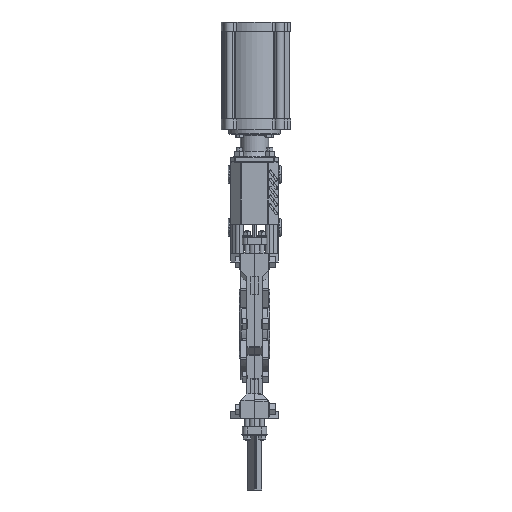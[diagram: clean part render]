
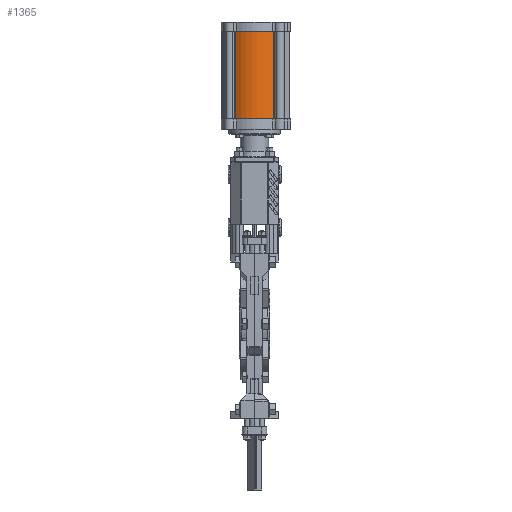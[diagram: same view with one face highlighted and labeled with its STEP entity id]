
A CAD part, front view. The second image highlights one B-rep face of the part: STEP entity #1365.
In plain terms, the highlighted cylindrical face has radius 55 mm (diameter 110 mm), a partial arc.
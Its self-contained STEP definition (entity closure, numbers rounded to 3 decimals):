
#1365=ADVANCED_FACE('',(#4782),#4783,.T.);
#4782=FACE_OUTER_BOUND('',#9770,.T.);
#4783=CYLINDRICAL_SURFACE('',#9771,55.);
#9770=EDGE_LOOP('',(#21362,#21363,#21364,#21365));
#9771=AXIS2_PLACEMENT_3D('',#21366,#21367,#21368);
#21362=ORIENTED_EDGE('',*,*,#35055,.T.);
#21363=ORIENTED_EDGE('',*,*,#35113,.F.);
#21364=ORIENTED_EDGE('',*,*,#35090,.F.);
#21365=ORIENTED_EDGE('',*,*,#35114,.T.);
#21366=CARTESIAN_POINT('',(0.,0.,496.5));
#21367=DIRECTION('',(0.,0.,1.));
#21368=DIRECTION('',(0.707,0.707,0.));
#35055=EDGE_CURVE('',#45524,#45522,#45525,.T.);
#35090=EDGE_CURVE('',#45583,#45585,#45586,.T.);
#35113=EDGE_CURVE('',#45585,#45522,#45624,.T.);
#35114=EDGE_CURVE('',#45583,#45524,#45625,.T.);
#45522=VERTEX_POINT('',#62018);
#45524=VERTEX_POINT('',#62020);
#45525=CIRCLE('',#62021,55.);
#45583=VERTEX_POINT('',#62088);
#45585=VERTEX_POINT('',#62090);
#45586=CIRCLE('',#62091,55.);
#45624=LINE('',#62139,#62140);
#45625=LINE('',#62141,#62142);
#62018=CARTESIAN_POINT('',(31.535,-45.062,348.));
#62020=CARTESIAN_POINT('',(-31.535,-45.062,348.));
#62021=AXIS2_PLACEMENT_3D('',#74442,#74443,#74444);
#62088=CARTESIAN_POINT('',(-31.535,-45.062,496.5));
#62090=CARTESIAN_POINT('',(31.535,-45.062,496.5));
#62091=AXIS2_PLACEMENT_3D('',#74529,#74530,#74531);
#62139=CARTESIAN_POINT('',(31.535,-45.062,496.5));
#62140=VECTOR('',#74578,1000.);
#62141=CARTESIAN_POINT('',(-31.535,-45.062,496.5));
#62142=VECTOR('',#74579,1000.);
#74442=CARTESIAN_POINT('',(0.,0.,348.));
#74443=DIRECTION('',(0.,0.,1.));
#74444=DIRECTION('',(-0.707,-0.707,0.));
#74529=CARTESIAN_POINT('',(0.,0.,496.5));
#74530=DIRECTION('',(0.,0.,1.));
#74531=DIRECTION('',(-0.707,-0.707,0.));
#74578=DIRECTION('',(0.,0.,-1.));
#74579=DIRECTION('',(0.,0.,-1.));
